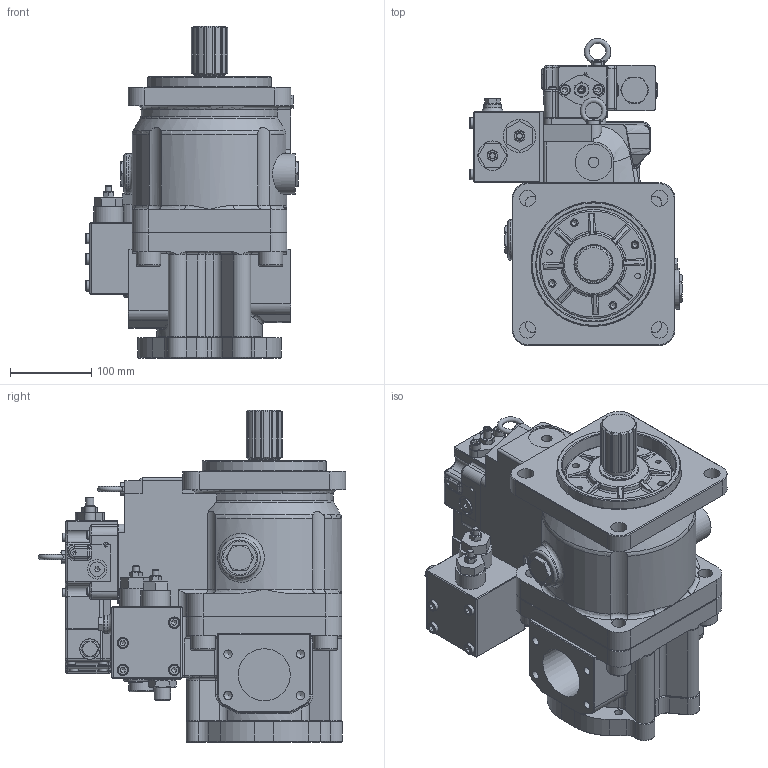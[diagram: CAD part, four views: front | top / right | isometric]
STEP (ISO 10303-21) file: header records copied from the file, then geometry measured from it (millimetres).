
FILE_DESCRIPTION(/* description */ (''),/* implementation_level */ '2;1');
FILE_NAME(/* name */ 'C:\Users\SJolliffe\Desktop\K3VL140 B 1BLSM-L1_1-Q0.stp',/* time_stamp */ '2017-10-18T12:15:16+01:00',/* author */ ('sjolliffe'),/* organization */ (''),/* preprocessor_version */ 'ST-DEVELOPER v16.13',/* originating_system */ 'Autodesk Inventor 2018',/* authorisation */ '');
FILE_SCHEMA (('AUTOMOTIVE_DESIGN { 1 0 10303 214 3 1 1 }'));
Products named in the file (1): K3VL140 B 1BLSM-L1_1-Q0
Bounding box: 261 x 377.3 x 407.5 mm (x, y, z)
Volume: 13146454.4 mm3; surface area: 740648.9 mm2
Topology: 1 solids, 64 shells, 2000 faces, 4662 edges, 2835 vertices
Faces by surface type: plane 946, cylinder 496, cone 335, torus 104, bspline 82, sphere 37
Full cylindrical faces by diameter (mm): 4 x10, 4.917 x4, 5 x13, 6 x10, 6.2 x11, 6.6 x9, 6.647 x11, 6.8 x2, 7 x1, 8 x9, 8.376 x8, 8.5 x1, 9 x6, 9.5 x4, 10 x11, 10.106 x14, 11 x10, 11.4 x2, 11.835 x4, 12 x4, 12.717 x1, 12.75 x1, 13 x6, 13.5 x4, 14 x4, 16 x2, 17.294 x6, 18 x5, 19.177 x1, 20 x13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
Entity records: 57093 total; most frequent: CARTESIAN_POINT 13049, DIRECTION 9007, ORIENTED_EDGE 8038, EDGE_CURVE 4019, AXIS2_PLACEMENT_3D 3562, VERTEX_POINT 2648, EDGE_LOOP 2575, FACE_OUTER_BOUND 1999
